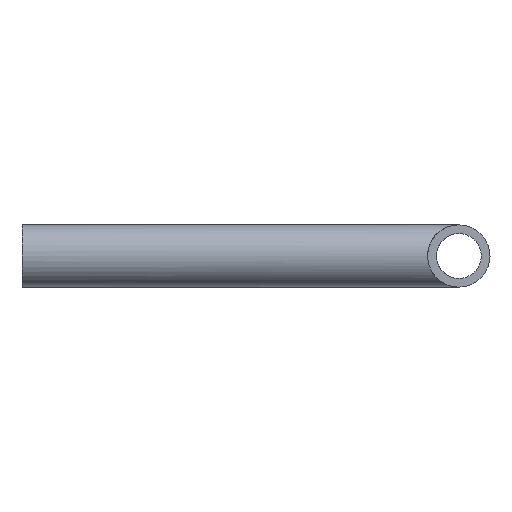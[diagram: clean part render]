
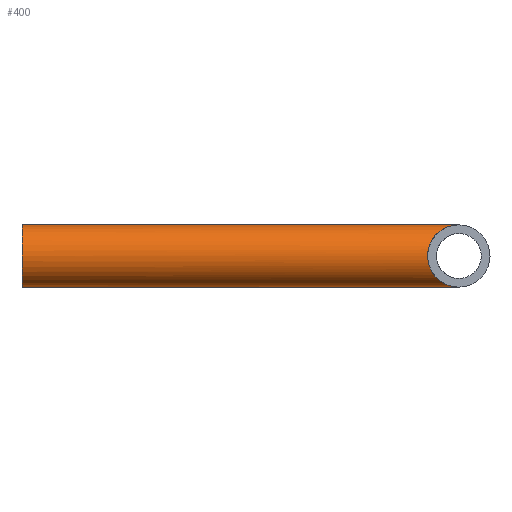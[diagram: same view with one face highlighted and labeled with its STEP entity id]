
A CAD part, left-side view. The second image highlights one B-rep face of the part: STEP entity #400.
In plain terms, the highlighted cylindrical face has radius 3.175 mm (diameter 6.35 mm), a partial arc.
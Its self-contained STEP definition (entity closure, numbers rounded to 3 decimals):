
#14 = VERTEX_POINT ( 'NONE', #319 ) ;
#20 = CARTESIAN_POINT ( 'NONE',  ( -6.35, 6.35, -3.175 ) ) ;
#34 = EDGE_LOOP ( 'NONE', ( #43, #172, #38, #66 ) ) ;
#38 = ORIENTED_EDGE ( 'NONE', *, *, #354, .T. ) ;
#43 = ORIENTED_EDGE ( 'NONE', *, *, #284, .F. ) ;
#56 = CARTESIAN_POINT ( 'NONE',  ( 0., 0., 3.175 ) ) ;
#66 = ORIENTED_EDGE ( 'NONE', *, *, #73, .T. ) ;
#73 = EDGE_CURVE ( 'NONE', #14, #215, #165, .T. ) ;
#74 = LINE ( 'NONE', #112, #75 ) ;
#75 = VECTOR ( 'NONE', #334, 1000. ) ;
#80 = CARTESIAN_POINT ( 'NONE',  ( 0., -500000., 0. ) ) ;
#101 = CARTESIAN_POINT ( 'NONE',  ( 0., -500000., 3.175 ) ) ;
#112 = CARTESIAN_POINT ( 'NONE',  ( 0., -500000., -3.175 ) ) ;
#158 = DIRECTION ( 'NONE',  ( 0., -1., 0. ) ) ;
#165 = CIRCLE ( 'NONE', #333, 3.175 ) ;
#166 = AXIS2_PLACEMENT_3D ( 'NONE', #80, #331, #270 ) ;
#172 = ORIENTED_EDGE ( 'NONE', *, *, #320, .F. ) ;
#194 = CARTESIAN_POINT ( 'NONE',  ( -6.35, 6.35, 3.175 ) ) ;
#195 = VERTEX_POINT ( 'NONE', #214 ) ;
#206 = DIRECTION ( 'NONE',  ( 0., 1., 0. ) ) ;
#207 = CARTESIAN_POINT ( 'NONE',  ( 0., 0., -3.175 ) ) ;
#214 = CARTESIAN_POINT ( 'NONE',  ( 0., 0., -3.175 ) ) ;
#215 = VERTEX_POINT ( 'NONE', #278 ) ;
#253 = VECTOR ( 'NONE', #206, 1000. ) ;
#270 = DIRECTION ( 'NONE',  ( 0., 0., 1. ) ) ;
#273 = CARTESIAN_POINT ( 'NONE',  ( 0., 0., 3.175 ) ) ;
#277 = VERTEX_POINT ( 'NONE', #56 ) ;
#278 = CARTESIAN_POINT ( 'NONE',  ( 0., 44.5, -3.175 ) ) ;
#281 = CYLINDRICAL_SURFACE ( 'NONE', #166, 3.175 ) ;
#284 = EDGE_CURVE ( 'NONE', #195, #215, #74, .T. ) ;
#314 = FACE_OUTER_BOUND ( 'NONE', #34, .T. ) ;
#319 = CARTESIAN_POINT ( 'NONE',  ( 0., 44.5, 3.175 ) ) ;
#320 = EDGE_CURVE ( 'NONE', #277, #195, #322, .T. ) ;
#322 =( BOUNDED_CURVE ( )  B_SPLINE_CURVE ( 3, ( #273, #194, #20, #207 ),
 .UNSPECIFIED., .F., .F. ) 
 B_SPLINE_CURVE_WITH_KNOTS ( ( 4, 4 ),
 ( 4.712, 7.854 ),
 .UNSPECIFIED. ) 
 CURVE ( )  GEOMETRIC_REPRESENTATION_ITEM ( )  RATIONAL_B_SPLINE_CURVE ( ( 1., 0.333, 0.333, 1. ) ) 
 REPRESENTATION_ITEM ( '' )  );
#331 = DIRECTION ( 'NONE',  ( 0., 1., 0. ) ) ;
#333 = AXIS2_PLACEMENT_3D ( 'NONE', #379, #158, #348 ) ;
#334 = DIRECTION ( 'NONE',  ( 0., 1., 0. ) ) ;
#348 = DIRECTION ( 'NONE',  ( 0., 0., 1. ) ) ;
#354 = EDGE_CURVE ( 'NONE', #277, #14, #361, .T. ) ;
#361 = LINE ( 'NONE', #101, #253 ) ;
#379 = CARTESIAN_POINT ( 'NONE',  ( 0., 44.5, 0. ) ) ;
#400 = ADVANCED_FACE ( 'NONE', ( #314 ), #281, .T. ) ;
